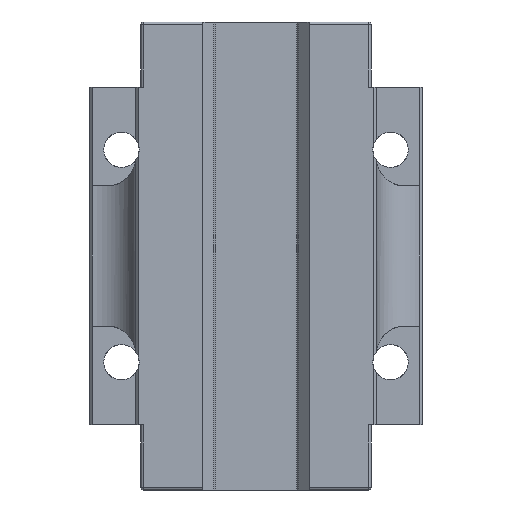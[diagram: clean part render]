
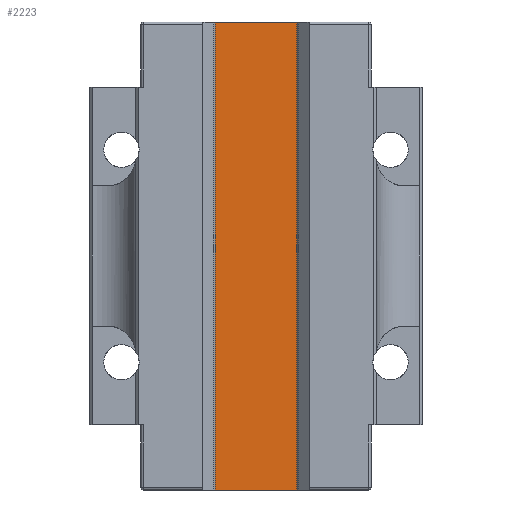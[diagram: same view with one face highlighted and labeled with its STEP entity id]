
A CAD part, front view. The second image highlights one B-rep face of the part: STEP entity #2223.
In plain terms, the highlighted planar face has unit normal (0, -1, 0).
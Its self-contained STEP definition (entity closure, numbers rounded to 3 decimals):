
#3 = CARTESIAN_POINT ( 'NONE',  ( -7.5, 13., 33.05 ) ) ;
#268 = DIRECTION ( 'NONE',  ( -1., 0., 0. ) ) ;
#306 = ORIENTED_EDGE ( 'NONE', *, *, #1557, .F. ) ;
#479 = CARTESIAN_POINT ( 'NONE',  ( -6.75, 13., -33.05 ) ) ;
#594 = VECTOR ( 'NONE', #268, 1000. ) ;
#627 = CARTESIAN_POINT ( 'NONE',  ( -7.5, 13., -33.05 ) ) ;
#745 = ORIENTED_EDGE ( 'NONE', *, *, #3164, .T. ) ;
#853 = VERTEX_POINT ( 'NONE', #2185 ) ;
#905 = CARTESIAN_POINT ( 'NONE',  ( 6.75, 13., 33.05 ) ) ;
#1036 = CARTESIAN_POINT ( 'NONE',  ( -7.5, 13., -33.05 ) ) ;
#1082 = VERTEX_POINT ( 'NONE', #2349 ) ;
#1100 = DIRECTION ( 'NONE',  ( 0., 1., 0. ) ) ;
#1161 = FACE_OUTER_BOUND ( 'NONE', #1497, .T. ) ;
#1267 = VERTEX_POINT ( 'NONE', #2146 ) ;
#1419 = DIRECTION ( 'NONE',  ( 0., 0., 1. ) ) ;
#1497 = EDGE_LOOP ( 'NONE', ( #306, #745, #3008, #2419 ) ) ;
#1519 = AXIS2_PLACEMENT_3D ( 'NONE', #627, #1100, #2322 ) ;
#1557 = EDGE_CURVE ( 'NONE', #853, #1082, #2848, .T. ) ;
#1605 = EDGE_CURVE ( 'NONE', #1267, #2598, #2553, .T. ) ;
#1874 = LINE ( 'NONE', #479, #2484 ) ;
#1913 = LINE ( 'NONE', #905, #2033 ) ;
#2033 = VECTOR ( 'NONE', #1419, 1000. ) ;
#2146 = CARTESIAN_POINT ( 'NONE',  ( 6.75, 13., 33.05 ) ) ;
#2185 = CARTESIAN_POINT ( 'NONE',  ( 6.75, 13., -33.05 ) ) ;
#2223 = ADVANCED_FACE ( 'NONE', ( #1161 ), #2763, .F. ) ;
#2255 = DIRECTION ( 'NONE',  ( 0., 0., -1. ) ) ;
#2303 = VECTOR ( 'NONE', #3330, 1000. ) ;
#2322 = DIRECTION ( 'NONE',  ( 0., 0., 1. ) ) ;
#2331 = CARTESIAN_POINT ( 'NONE',  ( -6.75, 13., 33.05 ) ) ;
#2349 = CARTESIAN_POINT ( 'NONE',  ( -6.75, 13., -33.05 ) ) ;
#2406 = EDGE_CURVE ( 'NONE', #2598, #1082, #1874, .T. ) ;
#2419 = ORIENTED_EDGE ( 'NONE', *, *, #2406, .T. ) ;
#2484 = VECTOR ( 'NONE', #2255, 1000. ) ;
#2553 = LINE ( 'NONE', #3, #594 ) ;
#2598 = VERTEX_POINT ( 'NONE', #2331 ) ;
#2763 = PLANE ( 'NONE',  #1519 ) ;
#2848 = LINE ( 'NONE', #1036, #2303 ) ;
#3008 = ORIENTED_EDGE ( 'NONE', *, *, #1605, .T. ) ;
#3164 = EDGE_CURVE ( 'NONE', #853, #1267, #1913, .T. ) ;
#3330 = DIRECTION ( 'NONE',  ( -1., 0., 0. ) ) ;
